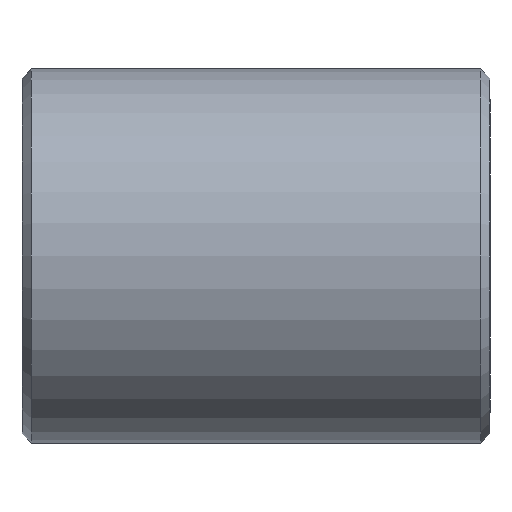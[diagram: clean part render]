
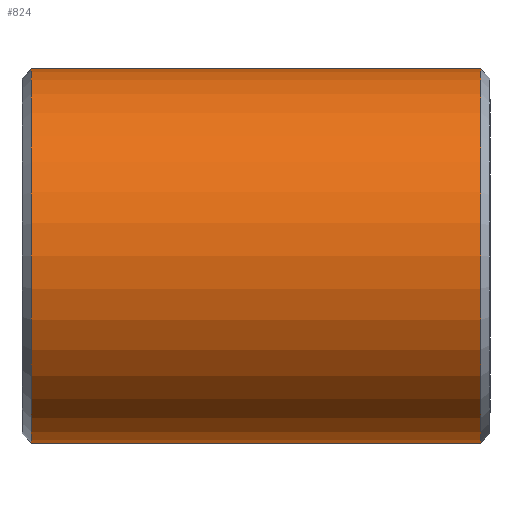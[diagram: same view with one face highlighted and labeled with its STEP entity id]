
A CAD part, left-side view. The second image highlights one B-rep face of the part: STEP entity #824.
In plain terms, the highlighted cylindrical face has radius 10 mm (diameter 20 mm), a partial arc.
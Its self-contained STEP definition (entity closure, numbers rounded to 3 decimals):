
#8 = LINE ( 'NONE', #621, #1107 ) ;
#35 = DIRECTION ( 'NONE',  ( 0., 1., 0. ) ) ;
#50 = AXIS2_PLACEMENT_3D ( 'NONE', #433, #131, #551 ) ;
#79 = CARTESIAN_POINT ( 'NONE',  ( 0., -23., 10. ) ) ;
#107 = DIRECTION ( 'NONE',  ( 0., -1., 0. ) ) ;
#116 = ORIENTED_EDGE ( 'NONE', *, *, #683, .T. ) ;
#119 = DIRECTION ( 'NONE',  ( 0., 0., 1. ) ) ;
#131 = DIRECTION ( 'NONE',  ( 0., 1., 0. ) ) ;
#140 = EDGE_CURVE ( 'NONE', #592, #200, #8, .T. ) ;
#148 = CYLINDRICAL_SURFACE ( 'NONE', #330, 10. ) ;
#200 = VERTEX_POINT ( 'NONE', #416 ) ;
#238 = CARTESIAN_POINT ( 'NONE',  ( 0., 65.513, 0. ) ) ;
#293 = DIRECTION ( 'NONE',  ( 0., 1., 0. ) ) ;
#318 = CARTESIAN_POINT ( 'NONE',  ( 0., 65.513, 10. ) ) ;
#330 = AXIS2_PLACEMENT_3D ( 'NONE', #238, #35, #990 ) ;
#416 = CARTESIAN_POINT ( 'NONE',  ( 0., 1., -10. ) ) ;
#433 = CARTESIAN_POINT ( 'NONE',  ( 0., -23., 0. ) ) ;
#465 = FACE_OUTER_BOUND ( 'NONE', #1078, .T. ) ;
#467 = VERTEX_POINT ( 'NONE', #79 ) ;
#539 = DIRECTION ( 'NONE',  ( 0., 1., 0. ) ) ;
#551 = DIRECTION ( 'NONE',  ( 0., 0., -1. ) ) ;
#565 = EDGE_CURVE ( 'NONE', #592, #467, #588, .T. ) ;
#588 = CIRCLE ( 'NONE', #50, 10. ) ;
#592 = VERTEX_POINT ( 'NONE', #855 ) ;
#621 = CARTESIAN_POINT ( 'NONE',  ( 0., 65.513, -10. ) ) ;
#647 = CARTESIAN_POINT ( 'NONE',  ( 0., 1., 0. ) ) ;
#683 = EDGE_CURVE ( 'NONE', #467, #979, #703, .T. ) ;
#703 = LINE ( 'NONE', #318, #937 ) ;
#712 = EDGE_CURVE ( 'NONE', #979, #200, #1334, .T. ) ;
#778 = ORIENTED_EDGE ( 'NONE', *, *, #140, .F. ) ;
#824 = ADVANCED_FACE ( 'NONE', ( #465 ), #148, .T. ) ;
#855 = CARTESIAN_POINT ( 'NONE',  ( 0., -23., -10. ) ) ;
#909 = CARTESIAN_POINT ( 'NONE',  ( 0., 1., 10. ) ) ;
#937 = VECTOR ( 'NONE', #539, 1000. ) ;
#940 = ORIENTED_EDGE ( 'NONE', *, *, #712, .T. ) ;
#979 = VERTEX_POINT ( 'NONE', #909 ) ;
#990 = DIRECTION ( 'NONE',  ( 0., 0., 1. ) ) ;
#1008 = ORIENTED_EDGE ( 'NONE', *, *, #565, .T. ) ;
#1078 = EDGE_LOOP ( 'NONE', ( #778, #1008, #116, #940 ) ) ;
#1107 = VECTOR ( 'NONE', #293, 1000. ) ;
#1202 = AXIS2_PLACEMENT_3D ( 'NONE', #647, #107, #119 ) ;
#1334 = CIRCLE ( 'NONE', #1202, 10. ) ;
